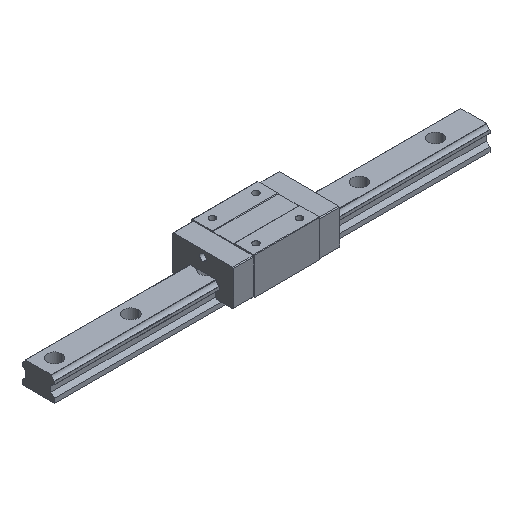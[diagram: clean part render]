
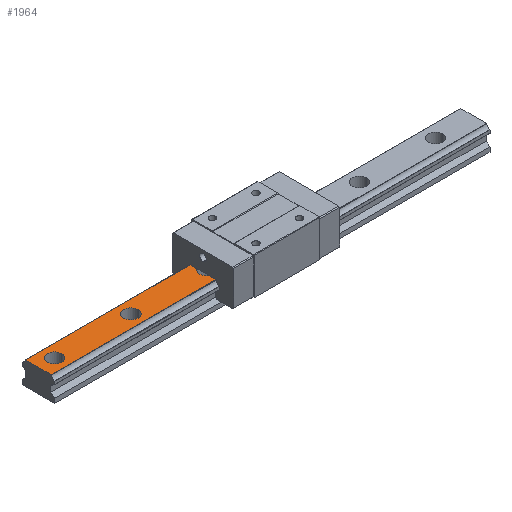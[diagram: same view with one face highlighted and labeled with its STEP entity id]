
A CAD part, isometric view. The second image highlights one B-rep face of the part: STEP entity #1964.
In plain terms, the highlighted planar face has unit normal (0, 0, 1).
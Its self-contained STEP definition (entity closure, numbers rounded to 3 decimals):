
#38 = DIRECTION ( 'NONE',  ( -1., 0., 0. ) ) ;
#105 = DIRECTION ( 'NONE',  ( 0., -1., 0. ) ) ;
#119 = EDGE_CURVE ( 'NONE', #3204, #3971, #378, .T. ) ;
#160 = CARTESIAN_POINT ( 'NONE',  ( -277.5, 0., 32. ) ) ;
#257 = AXIS2_PLACEMENT_3D ( 'NONE', #4053, #525, #575 ) ;
#262 = CARTESIAN_POINT ( 'NONE',  ( -300., 0., 32. ) ) ;
#271 = CARTESIAN_POINT ( 'NONE',  ( 300., 17.738, 32. ) ) ;
#324 = EDGE_CURVE ( 'NONE', #1802, #565, #4046, .T. ) ;
#333 = LINE ( 'NONE', #262, #3250 ) ;
#353 = CARTESIAN_POINT ( 'NONE',  ( -267.5, 0., 32. ) ) ;
#378 = LINE ( 'NONE', #2719, #4945 ) ;
#384 = AXIS2_PLACEMENT_3D ( 'NONE', #2389, #2113, #3627 ) ;
#427 = CARTESIAN_POINT ( 'NONE',  ( -287.5, 0., 32. ) ) ;
#437 = VERTEX_POINT ( 'NONE', #4859 ) ;
#525 = DIRECTION ( 'NONE',  ( 0., 0., -1. ) ) ;
#526 = ORIENTED_EDGE ( 'NONE', *, *, #3951, .T. ) ;
#565 = VERTEX_POINT ( 'NONE', #353 ) ;
#575 = DIRECTION ( 'NONE',  ( -1., 0., 0. ) ) ;
#722 = DIRECTION ( 'NONE',  ( 0., 0., -1. ) ) ;
#797 = VECTOR ( 'NONE', #2791, 1000. ) ;
#1054 = DIRECTION ( 'NONE',  ( -1., 0., 0. ) ) ;
#1062 = DIRECTION ( 'NONE',  ( 0., -1., 0. ) ) ;
#1125 = EDGE_CURVE ( 'NONE', #437, #3557, #4536, .T. ) ;
#1272 = ORIENTED_EDGE ( 'NONE', *, *, #4897, .T. ) ;
#1309 = PLANE ( 'NONE',  #3733 ) ;
#1317 = EDGE_CURVE ( 'NONE', #4530, #3557, #4918, .T. ) ;
#1374 = ORIENTED_EDGE ( 'NONE', *, *, #324, .T. ) ;
#1453 = CIRCLE ( 'NONE', #2928, 10. ) ;
#1667 = FACE_OUTER_BOUND ( 'NONE', #3860, .T. ) ;
#1690 = EDGE_CURVE ( 'NONE', #4893, #3999, #333, .T. ) ;
#1705 = ORIENTED_EDGE ( 'NONE', *, *, #3533, .T. ) ;
#1802 = VERTEX_POINT ( 'NONE', #427 ) ;
#1809 = DIRECTION ( 'NONE',  ( -1., 0., 0. ) ) ;
#1885 = DIRECTION ( 'NONE',  ( -1., 0., 0. ) ) ;
#1927 = CIRCLE ( 'NONE', #4952, 10. ) ;
#1964 = ADVANCED_FACE ( 'NONE', ( #1667, #2101, #4808 ), #1309, .F. ) ;
#1989 = CARTESIAN_POINT ( 'NONE',  ( -73., 17.738, 32. ) ) ;
#2061 = CARTESIAN_POINT ( 'NONE',  ( -182.5, 0., 32. ) ) ;
#2101 = FACE_BOUND ( 'NONE', #4447, .T. ) ;
#2113 = DIRECTION ( 'NONE',  ( 0., 0., -1. ) ) ;
#2194 = LINE ( 'NONE', #271, #3386 ) ;
#2298 = LINE ( 'NONE', #5030, #797 ) ;
#2381 = CARTESIAN_POINT ( 'NONE',  ( -162.5, 0., 32. ) ) ;
#2389 = CARTESIAN_POINT ( 'NONE',  ( -67.5, 0., 32. ) ) ;
#2402 = CARTESIAN_POINT ( 'NONE',  ( 300., 0., 32. ) ) ;
#2413 = ORIENTED_EDGE ( 'NONE', *, *, #1125, .T. ) ;
#2512 = AXIS2_PLACEMENT_3D ( 'NONE', #160, #3654, #4399 ) ;
#2539 = DIRECTION ( 'NONE',  ( 0., 0., -1. ) ) ;
#2629 = DIRECTION ( 'NONE',  ( 0., -1., 0. ) ) ;
#2656 = CARTESIAN_POINT ( 'NONE',  ( -300., 17.738, 32. ) ) ;
#2719 = CARTESIAN_POINT ( 'NONE',  ( -73., -17.738, 32. ) ) ;
#2751 = VERTEX_POINT ( 'NONE', #2061 ) ;
#2791 = DIRECTION ( 'NONE',  ( 1., 0., 0. ) ) ;
#2928 = AXIS2_PLACEMENT_3D ( 'NONE', #3764, #2539, #1054 ) ;
#3057 = EDGE_LOOP ( 'NONE', ( #3254, #1374 ) ) ;
#3204 = VERTEX_POINT ( 'NONE', #4010 ) ;
#3250 = VECTOR ( 'NONE', #1062, 1000. ) ;
#3254 = ORIENTED_EDGE ( 'NONE', *, *, #4403, .T. ) ;
#3386 = VECTOR ( 'NONE', #1809, 1000. ) ;
#3474 = ORIENTED_EDGE ( 'NONE', *, *, #1690, .T. ) ;
#3488 = CARTESIAN_POINT ( 'NONE',  ( -277.5, 0., 32. ) ) ;
#3499 = ORIENTED_EDGE ( 'NONE', *, *, #4468, .T. ) ;
#3530 = ORIENTED_EDGE ( 'NONE', *, *, #1317, .F. ) ;
#3533 = EDGE_CURVE ( 'NONE', #2751, #3991, #1453, .T. ) ;
#3557 = VERTEX_POINT ( 'NONE', #4926 ) ;
#3627 = DIRECTION ( 'NONE',  ( -1., 0., 0. ) ) ;
#3654 = DIRECTION ( 'NONE',  ( 0., 0., -1. ) ) ;
#3707 = CARTESIAN_POINT ( 'NONE',  ( -73., -17.738, 32. ) ) ;
#3733 = AXIS2_PLACEMENT_3D ( 'NONE', #2402, #3946, #105 ) ;
#3764 = CARTESIAN_POINT ( 'NONE',  ( -172.5, 0., 32. ) ) ;
#3860 = EDGE_LOOP ( 'NONE', ( #3499, #4680, #4731, #2413, #3530, #526, #3474 ) ) ;
#3871 = CARTESIAN_POINT ( 'NONE',  ( -300., -17.738, 32. ) ) ;
#3925 = DIRECTION ( 'NONE',  ( 0., -1., 0. ) ) ;
#3946 = DIRECTION ( 'NONE',  ( 0., 0., -1. ) ) ;
#3951 = EDGE_CURVE ( 'NONE', #4530, #4893, #2194, .T. ) ;
#3971 = VERTEX_POINT ( 'NONE', #4677 ) ;
#3991 = VERTEX_POINT ( 'NONE', #2381 ) ;
#3999 = VERTEX_POINT ( 'NONE', #3871 ) ;
#4010 = CARTESIAN_POINT ( 'NONE',  ( -73., -8.352, 32. ) ) ;
#4046 = CIRCLE ( 'NONE', #2512, 10. ) ;
#4053 = CARTESIAN_POINT ( 'NONE',  ( -67.5, 0., 32. ) ) ;
#4062 = CIRCLE ( 'NONE', #257, 10. ) ;
#4209 = CARTESIAN_POINT ( 'NONE',  ( -172.5, 0., 32. ) ) ;
#4257 = DIRECTION ( 'NONE',  ( 0., 0., -1. ) ) ;
#4399 = DIRECTION ( 'NONE',  ( -1., 0., 0. ) ) ;
#4403 = EDGE_CURVE ( 'NONE', #565, #1802, #1927, .T. ) ;
#4447 = EDGE_LOOP ( 'NONE', ( #1272, #1705 ) ) ;
#4468 = EDGE_CURVE ( 'NONE', #3999, #3971, #2298, .T. ) ;
#4530 = VERTEX_POINT ( 'NONE', #1989 ) ;
#4536 = CIRCLE ( 'NONE', #384, 10. ) ;
#4677 = CARTESIAN_POINT ( 'NONE',  ( -73., -17.738, 32. ) ) ;
#4680 = ORIENTED_EDGE ( 'NONE', *, *, #119, .F. ) ;
#4712 = CIRCLE ( 'NONE', #5041, 10. ) ;
#4731 = ORIENTED_EDGE ( 'NONE', *, *, #4957, .T. ) ;
#4797 = VECTOR ( 'NONE', #2629, 1000. ) ;
#4808 = FACE_BOUND ( 'NONE', #3057, .T. ) ;
#4859 = CARTESIAN_POINT ( 'NONE',  ( -77.5, 0., 32. ) ) ;
#4893 = VERTEX_POINT ( 'NONE', #2656 ) ;
#4897 = EDGE_CURVE ( 'NONE', #3991, #2751, #4712, .T. ) ;
#4918 = LINE ( 'NONE', #3707, #4797 ) ;
#4926 = CARTESIAN_POINT ( 'NONE',  ( -73., 8.352, 32. ) ) ;
#4945 = VECTOR ( 'NONE', #3925, 1000. ) ;
#4952 = AXIS2_PLACEMENT_3D ( 'NONE', #3488, #4257, #38 ) ;
#4957 = EDGE_CURVE ( 'NONE', #3204, #437, #4062, .T. ) ;
#5030 = CARTESIAN_POINT ( 'NONE',  ( 300., -17.738, 32. ) ) ;
#5041 = AXIS2_PLACEMENT_3D ( 'NONE', #4209, #722, #1885 ) ;
